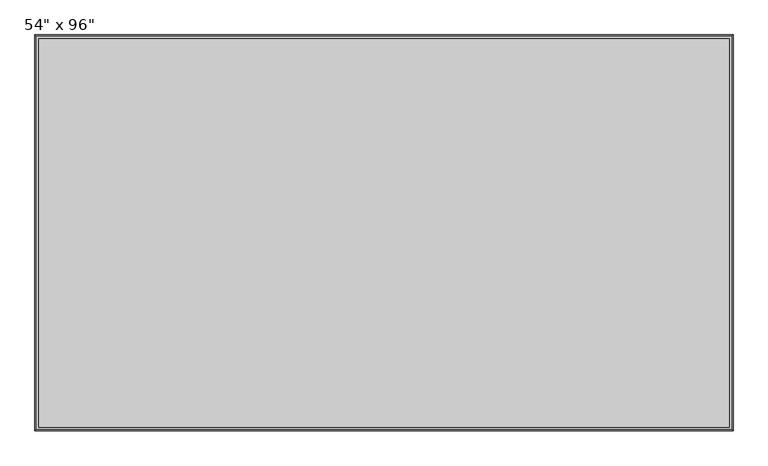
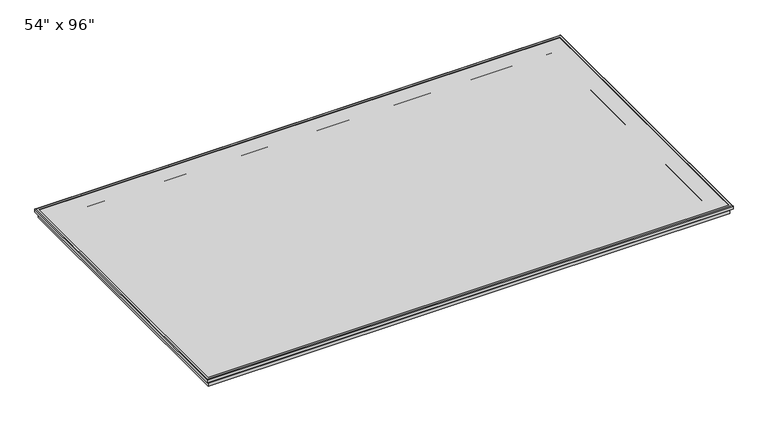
"""IFC4 building model written with IfcOpenShell, lengths in millimetres: proxy geometry."""

from ifc_helpers import new_model, si_unit, frame, origin, place, context, project, spatial, polyline, ellipse_curve, outline, extrude, source, transform, mapped, element, save
from ifc_brep_helpers import plane_surface, cylinder_surface, revolved_surface, advanced_brep


def proxy_b6d8bd4b(model_context):
    return source(origin(), model_context, "Body", "SolidModel", [
        advanced_brep(
        [(-1219.2, -685.8, 38.7617518), (-1219.2, -685.8, 41.275), (1219.2, -685.8, 41.275), (1219.2, -685.8, 38.7617518), (-1141.9, -608.5, 0.0), (-1141.9, -608.5, 38.7617518), (1141.9, -608.5, 38.7617518), (1141.9, -608.5, 0.0), (-1221.9, -688.5, 14.8528553), (-1221.9, -688.5, 0.0), (1221.9, -688.5, 0.0), (1221.9, -688.5, 14.8528553), (-1222.8789908, -689.4789908, 17.8246368), (1222.8789908, -689.4789908, 17.8246368), (-1227.8368179, -694.4368179, 24.532892), (1227.8368179, -694.4368179, 24.532892), (-1229.3080712, -695.9080712, 25.275), (1229.3080712, -695.9080712, 25.275), (-1231.9, -698.5, 38.275), (-1231.9, -698.5, 25.275), (1231.9, -698.5, 25.275), (1231.9, -698.5, 38.275), (-1228.9, -695.5, 41.275), (1228.9, -695.5, 41.275), (1219.2, 685.8, 41.275), (1219.2, 685.8, 38.7617518), (1141.9, 608.5, 38.7617518), (1141.9, 608.5, 0.0), (1221.9, 688.5, 0.0), (1221.9, 688.5, 14.8528553), (1222.8789908, 689.4789908, 17.8246368), (1227.8368179, 694.4368179, 24.532892), (1229.3080712, 695.9080712, 25.275), (1231.9, 698.5, 25.275), (1231.9, 698.5, 38.275), (1228.9, 695.5, 41.275), (-1219.2, 685.8, 41.275), (-1219.2, 685.8, 38.7617518), (-1141.9, 608.5, 38.7617518), (-1141.9, 608.5, 0.0), (-1221.9, 688.5, 0.0), (-1221.9, 688.5, 14.8528553), (-1222.8789908, 689.4789908, 17.8246368), (-1227.8368179, 694.4368179, 24.532892), (-1229.3080712, 695.9080712, 25.275), (-1231.9, 698.5, 25.275), (-1231.9, 698.5, 38.275), (-1228.9, 695.5, 41.275)],
        [
            (0, 1),
            (1, 2),
            (2, 3),
            (3, 0),
            (4, 5),
            (5, 6),
            (6, 7),
            (7, 4),
            (8, 9),
            (9, 10),
            (10, 11),
            (11, 8),
            (12, 8, ellipse_curve(frame((-1226.9, -693.5, 14.8528553), z_axis=(-0.7071067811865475, 0.7071067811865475, 0.0), x_axis=(0.7071067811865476, 0.7071067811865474, 0.0)), 7.0710678, 5.0)),
            (11, 13, ellipse_curve(frame((1226.9, -693.5, 14.8528553), z_axis=(0.7071067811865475, 0.7071067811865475, 0.0), x_axis=(0.7071067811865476, -0.7071067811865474, 0.0)), 7.0710678, 5.0)),
            (13, 12),
            (14, 12),
            (13, 15),
            (15, 14),
            (16, 14, ellipse_curve(frame((-1229.3080712, -695.9080712, 23.4455422), z_axis=(-0.7071067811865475, 0.7071067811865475, 0.0), x_axis=(0.7071067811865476, 0.7071067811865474, 0.0)), 2.587244, 1.8294578)),
            (15, 17, ellipse_curve(frame((1229.3080712, -695.9080712, 23.4455422), z_axis=(0.7071067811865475, 0.7071067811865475, 0.0), x_axis=(0.7071067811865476, -0.7071067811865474, 0.0)), 2.587244, 1.8294578)),
            (17, 16),
            (18, 19),
            (19, 20),
            (20, 21),
            (21, 18),
            (22, 18, ellipse_curve(frame((-1228.9, -695.5, 38.275), z_axis=(0.7071067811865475, -0.7071067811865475, 0.0), x_axis=(-0.7071067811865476, -0.7071067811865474, 0.0)), 4.2426407, 3.0)),
            (21, 23, ellipse_curve(frame((1228.9, -695.5, 38.275), z_axis=(-0.7071067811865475, -0.7071067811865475, 0.0), x_axis=(-0.7071067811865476, 0.7071067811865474, 0.0)), 4.2426407, 3.0)),
            (23, 22),
            (2, 24),
            (24, 25),
            (25, 3),
            (6, 26),
            (26, 27),
            (27, 7),
            (10, 28),
            (28, 29),
            (29, 11),
            (29, 30, ellipse_curve(frame((1226.9, 693.5, 14.8528553), z_axis=(-0.7071067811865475, 0.7071067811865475, 0.0), x_axis=(0.7071067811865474, 0.7071067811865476, 0.0)), 7.0710678, 5.0)),
            (30, 13),
            (30, 31),
            (31, 15),
            (31, 32, ellipse_curve(frame((1229.3080712, 695.9080712, 23.4455422), z_axis=(-0.7071067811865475, 0.7071067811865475, 0.0), x_axis=(0.7071067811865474, 0.7071067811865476, 0.0)), 2.587244, 1.8294578)),
            (32, 17),
            (20, 33),
            (33, 34),
            (34, 21),
            (34, 35, ellipse_curve(frame((1228.9, 695.5, 38.275), z_axis=(0.7071067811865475, -0.7071067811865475, 0.0), x_axis=(-0.7071067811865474, -0.7071067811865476, 0.0)), 4.2426407, 3.0)),
            (35, 23),
            (24, 36),
            (36, 37),
            (37, 25),
            (26, 38),
            (38, 39),
            (39, 27),
            (28, 40),
            (40, 41),
            (41, 29),
            (41, 42, ellipse_curve(frame((-1226.9, 693.5, 14.8528553), z_axis=(-0.7071067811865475, -0.7071067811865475, 0.0), x_axis=(-0.7071067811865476, 0.7071067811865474, 0.0)), 7.0710678, 5.0)),
            (42, 30),
            (42, 43),
            (43, 31),
            (43, 44, ellipse_curve(frame((-1229.3080712, 695.9080712, 23.4455422), z_axis=(-0.7071067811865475, -0.7071067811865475, 0.0), x_axis=(-0.7071067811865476, 0.7071067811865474, 0.0)), 2.587244, 1.8294578)),
            (44, 32),
            (33, 45),
            (45, 46),
            (46, 34),
            (46, 47, ellipse_curve(frame((-1228.9, 695.5, 38.275), z_axis=(0.7071067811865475, 0.7071067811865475, 0.0), x_axis=(0.7071067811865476, -0.7071067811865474, 0.0)), 4.2426407, 3.0)),
            (47, 35),
            (36, 1),
            (0, 37),
            (5, 38),
            (4, 39),
            (9, 40),
            (8, 41),
            (12, 42),
            (14, 43),
            (16, 44),
            (19, 45),
            (18, 46),
            (22, 47),
        ],
        [
            plane_surface(frame((-1219.2, -685.8, 41.275), z_axis=(0.0, 1.0, 0.0), x_axis=(1.0, 0.0, 0.0))),
            plane_surface(frame((-1141.9, -608.5, 38.7617518), z_axis=(0.0, 1.0, 0.0), x_axis=(1.0, 0.0, 0.0))),
            plane_surface(frame((-1221.9, -688.5, 0.0), z_axis=(0.0, -1.0, 0.0), x_axis=(1.0, 0.0, 0.0))),
            revolved_surface(polyline([(1231.89999999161, -688.5, 14.8528553), (-1231.89999999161, -688.5, 14.8528553)]), (-1231.9, -693.5, 14.8528553), (1.0, 0.0, 0.0)),
            plane_surface(frame((-1222.8789908, -689.4789908, 17.8246368), z_axis=(0.0, -0.8042018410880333, -0.5943562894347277), x_axis=(1.0, 0.0, 0.0))),
            revolved_surface(polyline([(1231.1375289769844, -694.0786134, 23.4455422), (-1231.1375289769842, -694.0786134, 23.4455422)]), (-1231.9, -695.9080712, 23.4455422), (1.0, 0.0, 0.0)),
            plane_surface(frame((-1231.9, -698.5, 25.275), z_axis=(0.0, -1.0, 0.0), x_axis=(1.0, 0.0, 0.0))),
            cylinder_surface(frame((-1231.9, -695.5, 38.275), z_axis=(-1.0, 0.0, 0.0), x_axis=(0.0, 1.0, 0.0)), 3.0),
            plane_surface(frame((1219.2, -685.8, 41.275), z_axis=(-1.0, 0.0, 0.0), x_axis=(0.0, 1.0, 0.0))),
            plane_surface(frame((1141.9, -608.5, 38.7617518), z_axis=(-1.0, 0.0, 0.0), x_axis=(0.0, 1.0, 0.0))),
            plane_surface(frame((1221.9, -688.5, 0.0), z_axis=(1.0, 0.0, 0.0), x_axis=(0.0, 1.0, 0.0))),
            revolved_surface(polyline([(1221.9, 698.4999999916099, 14.8528553), (1221.9, -698.4999999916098, 14.8528553)]), (1226.9, -698.5, 14.8528553), (0.0, 1.0, 0.0)),
            plane_surface(frame((1222.8789908, -689.4789908, 17.8246368), z_axis=(0.8042018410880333, 0.0, -0.5943562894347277), x_axis=(0.0, 1.0, 0.0))),
            revolved_surface(polyline([(1227.4786134, 697.7375289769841, 23.4455422), (1227.4786134, -697.7375289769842, 23.4455422)]), (1229.3080712, -698.5, 23.4455422), (0.0, 1.0, 0.0)),
            plane_surface(frame((1231.9, -698.5, 25.275), z_axis=(1.0, 0.0, 0.0), x_axis=(0.0, 1.0, 0.0))),
            cylinder_surface(frame((1228.9, -698.5, 38.275), z_axis=(0.0, -1.0, 0.0), x_axis=(-1.0, 0.0, 0.0)), 3.0),
            plane_surface(frame((1219.2, 685.8, 41.275), z_axis=(0.0, -1.0, 0.0), x_axis=(-1.0, 0.0, 0.0))),
            plane_surface(frame((1141.9, 608.5, 38.7617518), z_axis=(0.0, -1.0, 0.0), x_axis=(-1.0, 0.0, 0.0))),
            plane_surface(frame((1221.9, 688.5, 0.0), z_axis=(0.0, 1.0, 0.0), x_axis=(-1.0, 0.0, 0.0))),
            revolved_surface(polyline([(-1231.89999999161, 688.5, 14.8528553), (1231.89999999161, 688.5, 14.8528553)]), (1231.9, 693.5, 14.8528553), (-1.0, 0.0, 0.0)),
            plane_surface(frame((1222.8789908, 689.4789908, 17.8246368), z_axis=(0.0, 0.8042018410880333, -0.5943562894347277), x_axis=(-1.0, 0.0, 0.0))),
            revolved_surface(polyline([(-1231.1375289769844, 694.0786134, 23.4455422), (1231.1375289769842, 694.0786134, 23.4455422)]), (1231.9, 695.9080712, 23.4455422), (-1.0, 0.0, 0.0)),
            plane_surface(frame((1231.9, 698.5, 25.275), z_axis=(0.0, 1.0, 0.0), x_axis=(-1.0, 0.0, 0.0))),
            cylinder_surface(frame((1231.9, 695.5, 38.275), z_axis=(1.0, 0.0, 0.0), x_axis=(0.0, -1.0, 0.0)), 3.0),
            plane_surface(frame((-1219.2, 685.8, 41.275), z_axis=(1.0, 0.0, 0.0), x_axis=(0.0, -1.0, 0.0))),
            plane_surface(frame((-1219.2, 685.8, 38.7617518), z_axis=(0.0, 0.0, 1.0), x_axis=(0.0, -1.0, 0.0))),
            plane_surface(frame((-1141.9, 608.5, 38.7617518), z_axis=(1.0, 0.0, 0.0), x_axis=(0.0, -1.0, 0.0))),
            plane_surface(frame((-1141.9, 608.5, 0.0), z_axis=(0.0, 0.0, -1.0), x_axis=(0.0, -1.0, 0.0))),
            plane_surface(frame((-1221.9, 688.5, 0.0), z_axis=(-1.0, 0.0, 0.0), x_axis=(0.0, -1.0, 0.0))),
            revolved_surface(polyline([(-1221.9, -698.4999999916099, 14.8528553), (-1221.9, 698.4999999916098, 14.8528553)]), (-1226.9, 698.5, 14.8528553), (0.0, -1.0, 0.0)),
            plane_surface(frame((-1222.8789908, 689.4789908, 17.8246368), z_axis=(-0.8042018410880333, 0.0, -0.5943562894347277), x_axis=(0.0, -1.0, 0.0))),
            revolved_surface(polyline([(-1227.4786134, -697.7375289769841, 23.4455422), (-1227.4786134, 697.7375289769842, 23.4455422)]), (-1229.3080712, 698.5, 23.4455422), (0.0, -1.0, 0.0)),
            plane_surface(frame((-1229.3080712, 695.9080712, 25.275), z_axis=(0.0, 0.0, -1.0), x_axis=(0.0, -1.0, 0.0))),
            plane_surface(frame((-1231.9, 698.5, 25.275), z_axis=(-1.0, 0.0, 0.0), x_axis=(0.0, -1.0, 0.0))),
            cylinder_surface(frame((-1228.9, 698.5, 38.275), z_axis=(0.0, 1.0, 0.0), x_axis=(1.0, 0.0, 0.0)), 3.0),
            plane_surface(frame((-1228.9, 695.5, 41.275), z_axis=(0.0, 0.0, 1.0), x_axis=(0.0, -1.0, 0.0))),
        ],
        [
            (0, [[1, 2, 3, 4]]),
            (1, [[5, 6, 7, 8]]),
            (2, [[9, 10, 11, 12]]),
            (3, [[13, -12, 14, 15]]),
            (4, [[16, -15, 17, 18]]),
            (5, [[19, -18, 20, 21]]),
            (6, [[22, 23, 24, 25]]),
            (7, [[26, -25, 27, 28]]),
            (8, [[-3, 29, 30, 31]]),
            (9, [[-7, 32, 33, 34]]),
            (10, [[-11, 35, 36, 37]]),
            (11, [[-14, -37, 38, 39]]),
            (12, [[-17, -39, 40, 41]]),
            (13, [[-20, -41, 42, 43]]),
            (14, [[-24, 44, 45, 46]]),
            (15, [[-27, -46, 47, 48]]),
            (16, [[-30, 49, 50, 51]]),
            (17, [[-33, 52, 53, 54]]),
            (18, [[-36, 55, 56, 57]]),
            (19, [[-38, -57, 58, 59]]),
            (20, [[-40, -59, 60, 61]]),
            (21, [[-42, -61, 62, 63]]),
            (22, [[-45, 64, 65, 66]]),
            (23, [[-47, -66, 67, 68]]),
            (24, [[-50, 69, -1, 70]]),
            (25, [[-31, -51, -70, -4], [71, -52, -32, -6]]),
            (26, [[-53, -71, -5, 72]]),
            (27, [[73, -55, -35, -10], [-34, -54, -72, -8]]),
            (28, [[-56, -73, -9, 74]]),
            (29, [[-58, -74, -13, 75]]),
            (30, [[-60, -75, -16, 76]]),
            (31, [[-62, -76, -19, 77]]),
            (32, [[78, -64, -44, -23], [-43, -63, -77, -21]]),
            (33, [[-65, -78, -22, 79]]),
            (34, [[-67, -79, -26, 80]]),
            (35, [[-48, -68, -80, -28], [-69, -49, -29, -2]]),
        ],
    ),
        extrude(outline(polyline([(1219.2, 685.8), (1219.2, -685.8), (-1219.2, -685.8), (-1219.2, 685.8), (1219.2, 685.8)])), frame((0.0, 0.0, 38.7617518), z_axis=(0.0, 0.0, 1.0), x_axis=(1.0, 0.0, 0.0)), (0.0, 0.0, 1.0), 0.5132482),
    ])


if __name__ == "__main__":
    model = new_model("IFC4")
    model_context = context("Model", 3, world=origin())
    ifc_project = project(units=[si_unit("LENGTHUNIT", "METRE", prefix="MILLI")], contexts=[model_context])
    site = spatial("IfcSite", under=ifc_project)
    building = spatial("IfcBuilding", under=site)
    placement = place(None, origin())
    proxy_shape = proxy_b6d8bd4b(model_context)
    element("IfcBuildingElementProxy", 1, Name="Electronics-Visual-Projectors_Da-Lite_Specialty-Equipment_Parallax-Thin : 54\" x 96\"", ObjectType="Electronics-Visual-Projectors_Da-Lite_Specialty-Equipment_Parallax-Thin : 54\" x 96\"", at=placement, inside=building, context=model_context, shape_type="MappedRepresentation", body=[
        mapped(proxy_shape, transform((0.0, 0.0, 0.0), x_axis=(1.0, 0.0, 0.0), y_axis=(0.0, 1.0, 0.0), z_axis=(0.0, 0.0, 1.0))),
    ])
    save(model, "model.ifc")
